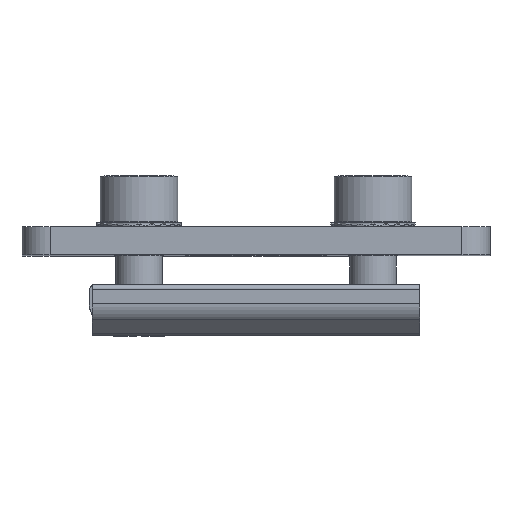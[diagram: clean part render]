
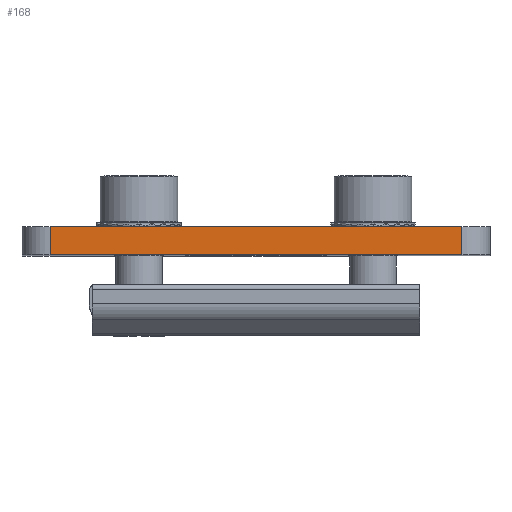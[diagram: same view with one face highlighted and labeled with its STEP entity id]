
A CAD part, top view. The second image highlights one B-rep face of the part: STEP entity #168.
In plain terms, the highlighted planar face has unit normal (0, 0, 1).
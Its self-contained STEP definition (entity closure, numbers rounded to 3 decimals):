
#157 = CARTESIAN_POINT ( 'NONE',  ( -49.363, 20.675, 41.412 ) ) ;
#168 = ADVANCED_FACE ( 'NONE', ( #8449 ), #3284, .T. ) ;
#542 = CARTESIAN_POINT ( 'NONE',  ( -5.363, 20.675, 41.412 ) ) ;
#641 = DIRECTION ( 'NONE',  ( 0., -1., 0. ) ) ;
#802 = EDGE_CURVE ( 'NONE', #3901, #3545, #8537, .T. ) ;
#947 = ORIENTED_EDGE ( 'NONE', *, *, #1085, .T. ) ;
#1085 = EDGE_CURVE ( 'NONE', #3545, #4835, #6341, .T. ) ;
#1232 = VECTOR ( 'NONE', #3269, 1000. ) ;
#1750 = DIRECTION ( 'NONE',  ( 1., 0., 0. ) ) ;
#1807 = EDGE_CURVE ( 'NONE', #7349, #4835, #7852, .T. ) ;
#2022 = CARTESIAN_POINT ( 'NONE',  ( -5.363, 20.675, 41.412 ) ) ;
#2029 = CARTESIAN_POINT ( 'NONE',  ( -49.363, 20.675, 41.412 ) ) ;
#3269 = DIRECTION ( 'NONE',  ( 0., -1., 0. ) ) ;
#3284 = PLANE ( 'NONE',  #8165 ) ;
#3545 = VERTEX_POINT ( 'NONE', #157 ) ;
#3901 = VERTEX_POINT ( 'NONE', #2022 ) ;
#3909 = ORIENTED_EDGE ( 'NONE', *, *, #802, .T. ) ;
#4588 = CARTESIAN_POINT ( 'NONE',  ( -5.363, 17.675, 41.412 ) ) ;
#4590 = EDGE_CURVE ( 'NONE', #3901, #7349, #4776, .T. ) ;
#4776 = LINE ( 'NONE', #8145, #1232 ) ;
#4835 = VERTEX_POINT ( 'NONE', #4928 ) ;
#4928 = CARTESIAN_POINT ( 'NONE',  ( -49.363, 17.675, 41.412 ) ) ;
#4941 = DIRECTION ( 'NONE',  ( 0., 0., 1. ) ) ;
#5426 = CARTESIAN_POINT ( 'NONE',  ( -5.363, 20.675, 41.412 ) ) ;
#6097 = EDGE_LOOP ( 'NONE', ( #7326, #6901, #3909, #947 ) ) ;
#6123 = VECTOR ( 'NONE', #641, 1000. ) ;
#6341 = LINE ( 'NONE', #2029, #6123 ) ;
#6901 = ORIENTED_EDGE ( 'NONE', *, *, #4590, .F. ) ;
#7326 = ORIENTED_EDGE ( 'NONE', *, *, #1807, .F. ) ;
#7349 = VERTEX_POINT ( 'NONE', #4588 ) ;
#7629 = VECTOR ( 'NONE', #8621, 1000. ) ;
#7852 = LINE ( 'NONE', #7914, #7629 ) ;
#7914 = CARTESIAN_POINT ( 'NONE',  ( -5.363, 17.675, 41.412 ) ) ;
#8145 = CARTESIAN_POINT ( 'NONE',  ( -5.363, 20.675, 41.412 ) ) ;
#8165 = AXIS2_PLACEMENT_3D ( 'NONE', #5426, #4941, #1750 ) ;
#8325 = VECTOR ( 'NONE', #8880, 1000. ) ;
#8449 = FACE_OUTER_BOUND ( 'NONE', #6097, .T. ) ;
#8537 = LINE ( 'NONE', #542, #8325 ) ;
#8621 = DIRECTION ( 'NONE',  ( -1., 0., 0. ) ) ;
#8880 = DIRECTION ( 'NONE',  ( -1., 0., 0. ) ) ;
